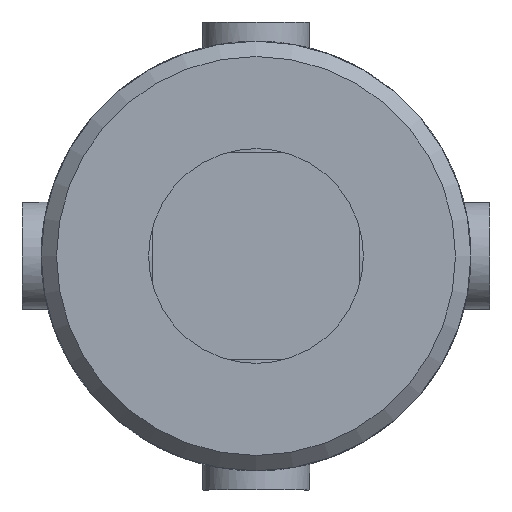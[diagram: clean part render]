
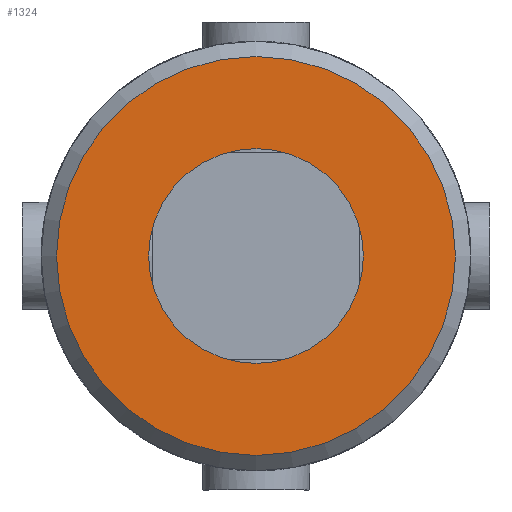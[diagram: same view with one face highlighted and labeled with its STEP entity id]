
A CAD part, left-side view. The second image highlights one B-rep face of the part: STEP entity #1324.
In plain terms, the highlighted planar face has unit normal (-1, 0, 0) as drawn and (0, -1, 0) by its records, which use the part's own axes.
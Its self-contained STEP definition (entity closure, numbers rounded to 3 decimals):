
#196=PLANE('',#1455);
#308=FACE_BOUND('',#485,.T.);
#374=FACE_OUTER_BOUND('',#484,.T.);
#484=EDGE_LOOP('',(#1155));
#485=EDGE_LOOP('',(#1156));
#552=CIRCLE('',#1450,7.);
#554=CIRCLE('',#1453,13.);
#664=VERTEX_POINT('',#2607);
#666=VERTEX_POINT('',#2612);
#831=EDGE_CURVE('',#664,#664,#552,.T.);
#833=EDGE_CURVE('',#666,#666,#554,.T.);
#1155=ORIENTED_EDGE('',*,*,#833,.F.);
#1156=ORIENTED_EDGE('',*,*,#831,.T.);
#1324=ADVANCED_FACE('',(#374,#308),#196,.F.);
#1450=AXIS2_PLACEMENT_3D('',#2608,#1736,#1737);
#1453=AXIS2_PLACEMENT_3D('',#2613,#1742,#1743);
#1455=AXIS2_PLACEMENT_3D('',#2789,#1750,#1751);
#1736=DIRECTION('center_axis',(0.,1.,0.));
#1737=DIRECTION('ref_axis',(-1.,0.,0.));
#1742=DIRECTION('center_axis',(0.,1.,0.));
#1743=DIRECTION('ref_axis',(1.,0.,0.));
#1750=DIRECTION('center_axis',(0.,1.,0.));
#1751=DIRECTION('ref_axis',(0.,0.,1.));
#2607=CARTESIAN_POINT('',(7.,-36.5,0.));
#2608=CARTESIAN_POINT('Origin',(0.,-36.5,0.));
#2612=CARTESIAN_POINT('',(-13.,-36.5,0.));
#2613=CARTESIAN_POINT('Origin',(0.,-36.5,0.));
#2789=CARTESIAN_POINT('Origin',(0.,-36.5,0.));
